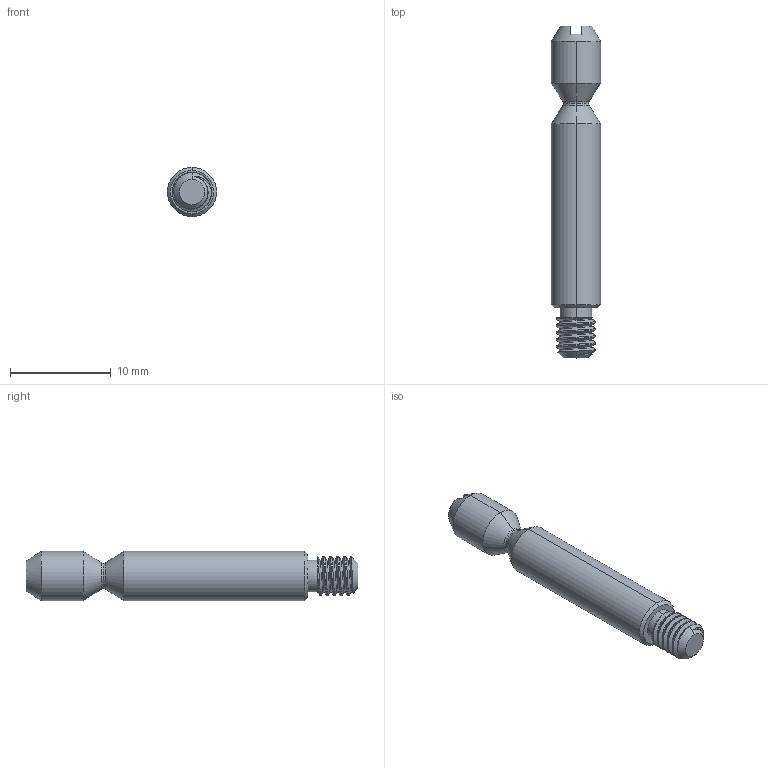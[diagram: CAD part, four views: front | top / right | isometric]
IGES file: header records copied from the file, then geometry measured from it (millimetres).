
Start section: 3D InterOp IGES (v. 2022 1.0.1), Spatial Corp. Copyright (c) 1999-2020.
Global section: file name: E544_PIN_11.03.482 Dowel pin f. mini system s.igs; native system: Spatial Corp.; preprocessor: 3D InterOp GENERIC/IGES 3.0; author: Noname; organization: Noname; date: 20251208.165646; units: millimetre
Bounding box: 4.9 x 33 x 4.9 mm (x, y, z)
Surface area: 529.6 mm2 (no closed solid volume)
Topology: 0 solids, 0 shells, 41 faces, 400 edges, 400 vertices
Faces by surface type: revolution 30, extrusion 8, bspline 3
